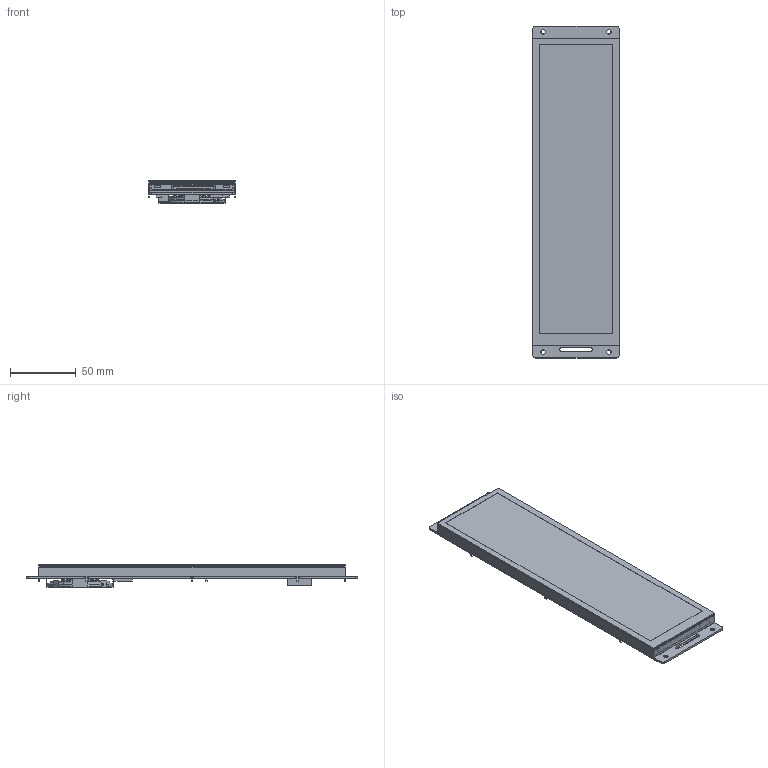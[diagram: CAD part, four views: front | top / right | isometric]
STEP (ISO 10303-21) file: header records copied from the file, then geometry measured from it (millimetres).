
FILE_DESCRIPTION((''),'2;1');
FILE_NAME('DMG19480C088_03WTC_ASM','2020-05-27T',('Administrator'),(''),'PRO/ENGINEER BY PARAMETRIC TECHNOLOGY CORPORATION, 2014320','PRO/ENGINEER BY PARAMETRIC TECHNOLOGY CORPORATION, 2014320','');
FILE_SCHEMA(('CONFIG_CONTROL_DESIGN','SHAPE_APPEARANCE_LAYERS_GROUPS'));
Products named in the file (57): TFT_V01_001_1; CF_V01_001_2; UP_POLARIZER_V01_001_3; DOWN_POLARIZER_V01_001_1; UP_DIFFUSER_1; UP_PRISM_SHEET_1; DOWN_PRISM_SHEET_1; DOWN_DIFFUSER_SHEET_1; LGP_1; REFLECTOR_SHEET_1; _X2_51434EF6672C9AD4_X0__1-5001; _X2_51434EF6672C9AD4_X0__2-5293; LABEL_ASM_1_ASM; BACKCOVER_TN_1; _X2_51434EF6672C9AD4_X0__-19510; _X2_51434EF6672C9AD4_X0__-20840; _X2_51434EF6672C9AD4_X0__3_1; _X2_51434EF6672C9AD4_X0__4_1; _X2_51434EF6672C9AD4_X0__5_1; _X2_51434EF6672C9AD4_X0__6_1; _X2_51434EF6672C9AD4_X0__7_1; _X2_51434EF6672C9AD4_X0__8_1; _X2_51434EF6672C9AD4_X0__9_1; _X2_51434EF6672C9AD4_X0__10_1; 4014_LED_ASM_1_ASM; _X2_51434EF6672C9AD4_X0__-32255; _X2_51434EF6672C9AD4_X0__-32414; THERMAL_TAPE_ASM_1_ASM; LED_PCB_1; LED_FPC_1; LIGHT_BAR_ASSEMBLY_ASM_1_ASM; FRAME_TN_1; LGP_FIXING_TAPE_1; _X2_51434EF6672C9AD4_X0__-42731; _X2_51434EF6672C9AD4_X0__-42890; FILM_FIXING_TAPE_ASM_1_ASM; LCD_FPC_1; X-DATA_IC_1; CELL_FIXING_TAPE_1; _X2_51434EF6672C9AD4_X0__-44865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
Assembly tree (56 placements, depth 7):
  DMG19480C088_03WTC_ASM
    ASM0001_ASM_14_ASM
      WD088SHM40ZA_MODULE_2019-08-30__ASM
        P1009_SLIM_MODULE_ASM_1_ASM
          TFT_V01_001_1
          CF_V01_001_2
          UP_POLARIZER_V01_001_3
          DOWN_POLARIZER_V01_001_1
          UP_DIFFUSER_1
          UP_PRISM_SHEET_1
          DOWN_PRISM_SHEET_1
          DOWN_DIFFUSER_SHEET_1
          LGP_1
          REFLECTOR_SHEET_1
          LABEL_ASM_1_ASM
            _X2_51434EF6672C9AD4_X0__1-5001
            _X2_51434EF6672C9AD4_X0__2-5293
          BACKCOVER_TN_1
          LIGHT_BAR_ASSEMBLY_ASM_1_ASM
            4014_LED_ASM_1_ASM
              _X2_51434EF6672C9AD4_X0__-19510
              _X2_51434EF6672C9AD4_X0__-20840
              _X2_51434EF6672C9AD4_X0__3_1
              _X2_51434EF6672C9AD4_X0__4_1
              _X2_51434EF6672C9AD4_X0__5_1
              _X2_51434EF6672C9AD4_X0__6_1
              _X2_51434EF6672C9AD4_X0__7_1
              _X2_51434EF6672C9AD4_X0__8_1
              _X2_51434EF6672C9AD4_X0__9_1
              _X2_51434EF6672C9AD4_X0__10_1
            THERMAL_TAPE_ASM_1_ASM
              _X2_51434EF6672C9AD4_X0__-32255
              _X2_51434EF6672C9AD4_X0__-32414
            LED_PCB_1
            LED_FPC_1
          FRAME_TN_1
          LGP_FIXING_TAPE_1
          FILM_FIXING_TAPE_ASM_1_ASM
            _X2_51434EF6672C9AD4_X0__-42731
            _X2_51434EF6672C9AD4_X0__-42890
          LCD_FPC_1
          X-DATA_IC_1
          CELL_FIXING_TAPE_1
          FPC_FIXING_TAPE_ASM_1_ASM
            _X2_51434EF6672C9AD4_X0__-44865
            _X2_51434EF6672C9AD4_X0__-45024
          CONDUCTIVE_TAPE_1
          LEFTSIDE_BEZEL_TAPE_1
          UPSIDE_BEZEL_TAPE_1
          RIGHTSIDE_BEZEL_TAPE_1
          DOWNSIDE_BEZEL_TAPE_1
          FH34SRJ-40S-0_5SH_1
      TK_12
      CTP_4
      L320-BUGLE-1122_8_2
      BUGLE-TK-181204_14_3
      PCB20200527_1
Bounding box: 65.4 x 252 x 16.98 mm (x, y, z)
Volume: 124045.3 mm3; surface area: 358803.5 mm2
Topology: 46 solids, 46 shells, 2246 faces, 6300 edges, 4138 vertices
Faces by surface type: plane 1711, cylinder 507, torus 14, bspline 10, sphere 4
Entity records: 90309 total; most frequent: CARTESIAN_POINT 13538, ORIENTED_EDGE 12592, DIRECTION 12044, EDGE_CURVE 6296, PRESENTATION_STYLE_ASSIGNMENT 5436, STYLED_ITEM 5413, CURVE_STYLE 5360, VECTOR 5114
